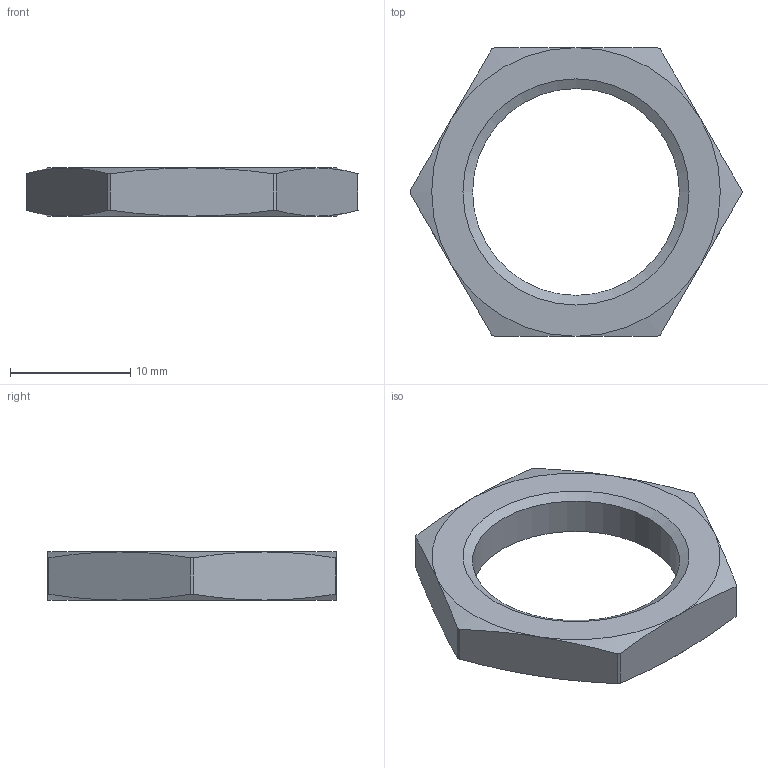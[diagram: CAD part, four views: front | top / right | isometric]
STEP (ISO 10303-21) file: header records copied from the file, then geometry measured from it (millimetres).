
FILE_DESCRIPTION((''),'2;1');
FILE_NAME('J:\Projekte\Kunststoff-Blechteile\Zeichnungen\Bibliothek Inventor\3D Solids\pico+\STP\M18x1 Mutter_nut.stp','2009-05-11T13:33:04',('Oliver Liedtke'),(''),'Autodesk Inventor 2009','Autodesk Inventor 2009','');
FILE_SCHEMA(('AUTOMOTIVE_DESIGN { 1 0 10303 214 1 1 1 1 }'));
Length unit declared in the file: millimetre
Products named in the file (1): M18x1 Mutter_nut
Bounding box: 27.6 x 24 x 4 mm (x, y, z)
Volume: 1031.3 mm3; surface area: 1020 mm2
Topology: 1 solids, 1 shells, 29 faces, 67 edges, 40 vertices
Faces by surface type: cone 14, plane 8, cylinder 7
Full cylindrical faces by diameter (mm): 17.2 x1
Entity records: 846 total; most frequent: CARTESIAN_POINT 182, DIRECTION 128, ORIENTED_EDGE 128, EDGE_CURVE 64, AXIS2_PLACEMENT_3D 58, VERTEX_POINT 40, EDGE_LOOP 34, STYLED_ITEM 30
